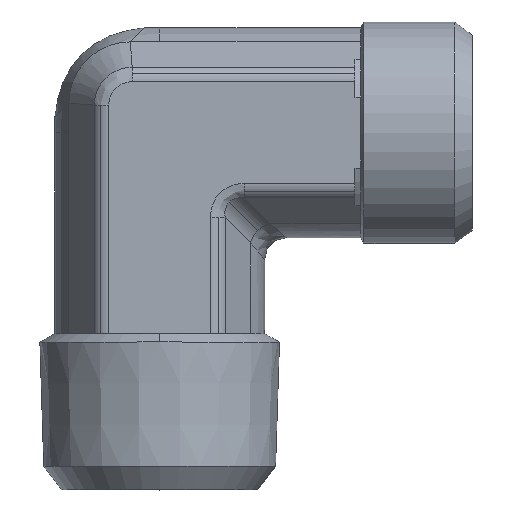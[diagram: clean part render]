
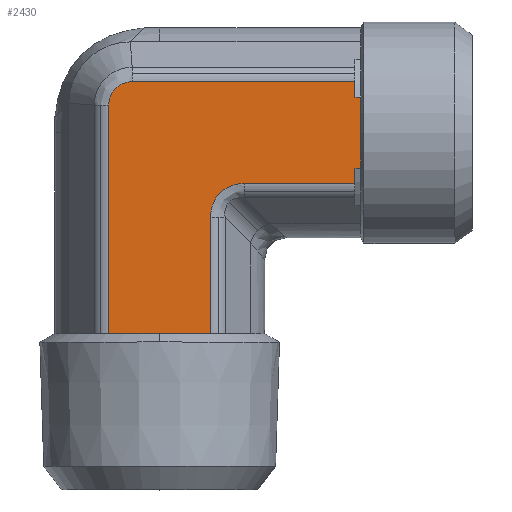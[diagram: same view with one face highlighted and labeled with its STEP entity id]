
A CAD part, top view. The second image highlights one B-rep face of the part: STEP entity #2430.
In plain terms, the highlighted planar face has unit normal (0, 0, 1) as drawn and (0, -1, 0) by its records, which use the part's own axes.
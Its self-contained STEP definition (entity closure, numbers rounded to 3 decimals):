
#361=CARTESIAN_POINT('',(3.092,-9.4,4.561));
#362=VERTEX_POINT('',#361);
#370=CARTESIAN_POINT('',(13.5,-9.4,4.561));
#371=VERTEX_POINT('',#370);
#372=CARTESIAN_POINT('',(3.092,-9.4,4.561));
#373=DIRECTION('',(1.0,0.0,0.0));
#374=VECTOR('',#373,10.408);
#375=LINE('',#372,#374);
#376=EDGE_CURVE('',#362,#371,#375,.T.);
#485=CARTESIAN_POINT('',(-9.061,-9.4,-2.461));
#486=VERTEX_POINT('',#485);
#494=CARTESIAN_POINT('',(-9.061,-9.4,17.5));
#495=VERTEX_POINT('',#494);
#496=CARTESIAN_POINT('',(-9.061,-9.4,-2.461));
#497=DIRECTION('',(0.0,0.0,1.0));
#498=VECTOR('',#497,19.961);
#499=LINE('',#496,#498);
#500=EDGE_CURVE('',#486,#495,#499,.T.);
#711=CARTESIAN_POINT('',(13.5,-9.4,0.));
#712=VERTEX_POINT('',#711);
#1898=CARTESIAN_POINT('',(0.061,-9.4,17.5));
#1899=VERTEX_POINT('',#1898);
#1900=CARTESIAN_POINT('',(-1.315,-9.4,17.5));
#1901=VERTEX_POINT('',#1900);
#1902=CARTESIAN_POINT('',(0.061,-9.4,17.5));
#1903=DIRECTION('',(-1.0,0.0,0.0));
#1904=VECTOR('',#1903,1.376);
#1905=LINE('',#1902,#1904);
#1906=EDGE_CURVE('',#1899,#1901,#1905,.T.);
#1957=CARTESIAN_POINT('',(-7.685,-9.4,17.5));
#1958=VERTEX_POINT('',#1957);
#1959=CARTESIAN_POINT('',(-7.685,-9.4,17.5));
#1960=DIRECTION('',(-1.0,0.0,0.0));
#1961=VECTOR('',#1960,1.376);
#1962=LINE('',#1959,#1961);
#1963=EDGE_CURVE('',#1958,#495,#1962,.T.);
#2062=CARTESIAN_POINT('',(-1.315,-9.4,18.0));
#2063=VERTEX_POINT('',#2062);
#2064=CARTESIAN_POINT('',(-1.315,-9.4,17.5));
#2065=DIRECTION('',(0.0,0.0,1.0));
#2066=VECTOR('',#2065,0.5);
#2067=LINE('',#2064,#2066);
#2068=EDGE_CURVE('',#1901,#2063,#2067,.T.);
#2103=CARTESIAN_POINT('',(-7.685,-9.4,18.0));
#2104=VERTEX_POINT('',#2103);
#2105=CARTESIAN_POINT('',(-7.685,-9.4,18.0));
#2106=DIRECTION('',(0.0,0.0,-1.0));
#2107=VECTOR('',#2106,0.5);
#2108=LINE('',#2105,#2107);
#2109=EDGE_CURVE('',#2104,#1958,#2108,.T.);
#2336=CARTESIAN_POINT('',(-4.5,-9.4,18.0));
#2337=VERTEX_POINT('',#2336);
#2338=CARTESIAN_POINT('',(-4.5,-9.4,18.0));
#2339=DIRECTION('',(-1.0,0.0,0.0));
#2340=VECTOR('',#2339,3.185);
#2341=LINE('',#2338,#2340);
#2342=EDGE_CURVE('',#2337,#2104,#2341,.T.);
#2360=CARTESIAN_POINT('',(-4.5,-9.4,-3.175));
#2361=DIRECTION('',(0.0,-1.0,0.0));
#2362=DIRECTION('',(0.0,0.0,-1.0));
#2363=AXIS2_PLACEMENT_3D('',#2360,#2361,#2362);
#2364=PLANE('',#2363);
#2365=ORIENTED_EDGE('',*,*,#2109,.T.);
#2366=ORIENTED_EDGE('',*,*,#1963,.T.);
#2367=ORIENTED_EDGE('',*,*,#500,.F.);
#2368=CARTESIAN_POINT('',(-6.961,-9.4,-4.561));
#2369=VERTEX_POINT('',#2368);
#2370=CARTESIAN_POINT('',(-9.061,-9.4,-2.461));
#2371=CARTESIAN_POINT('',(-9.061,-9.4,-2.598));
#2372=CARTESIAN_POINT('',(-9.048,-9.4,-2.736));
#2373=CARTESIAN_POINT('',(-8.977,-9.4,-3.088));
#2374=CARTESIAN_POINT('',(-8.901,-9.4,-3.296));
#2375=CARTESIAN_POINT('',(-8.62,-9.4,-3.796));
#2376=CARTESIAN_POINT('',(-8.37,-9.4,-4.058));
#2377=CARTESIAN_POINT('',(-7.737,-9.4,-4.451));
#2378=CARTESIAN_POINT('',(-7.349,-9.4,-4.561));
#2379=CARTESIAN_POINT('',(-6.961,-9.4,-4.561));
#2380=B_SPLINE_CURVE_WITH_KNOTS('',3,(#2370,#2371,#2372,#2373,#2374,#2375,#2376,#2377,#2378,#2379),.UNSPECIFIED.,.F.,.U.,(4,2,2,2,4),(-3.281,-2.871,-2.215,-1.165,0.0),.UNSPECIFIED.);
#2381=EDGE_CURVE('',#2369,#486,#2380,.F.);
#2382=ORIENTED_EDGE('',*,*,#2381,.F.);
#2383=CARTESIAN_POINT('',(13.5,-9.4,-4.561));
#2384=VERTEX_POINT('',#2383);
#2385=CARTESIAN_POINT('',(13.5,-9.4,-4.561));
#2386=DIRECTION('',(-1.0,0.0,0.0));
#2387=VECTOR('',#2386,20.461);
#2388=LINE('',#2385,#2387);
#2389=EDGE_CURVE('',#2384,#2369,#2388,.T.);
#2390=ORIENTED_EDGE('',*,*,#2389,.F.);
#2391=CARTESIAN_POINT('',(13.5,-9.4,-4.561));
#2392=DIRECTION('',(0.0,0.0,1.0));
#2393=VECTOR('',#2392,4.561);
#2394=LINE('',#2391,#2393);
#2395=EDGE_CURVE('',#2384,#712,#2394,.T.);
#2396=ORIENTED_EDGE('',*,*,#2395,.T.);
#2397=CARTESIAN_POINT('',(13.5,-9.4,0.));
#2398=DIRECTION('',(0.0,0.0,1.0));
#2399=VECTOR('',#2398,4.561);
#2400=LINE('',#2397,#2399);
#2401=EDGE_CURVE('',#712,#371,#2400,.T.);
#2402=ORIENTED_EDGE('',*,*,#2401,.T.);
#2403=ORIENTED_EDGE('',*,*,#376,.F.);
#2404=CARTESIAN_POINT('',(0.061,-9.4,7.592));
#2405=VERTEX_POINT('',#2404);
#2406=CARTESIAN_POINT('',(4.103,-9.4,8.603));
#2407=DIRECTION('',(0.,-1.0,0.));
#2408=DIRECTION('',(-0.707,0.,-0.707));
#2409=AXIS2_PLACEMENT_3D('',#2406,#2407,#2408);
#2410=ELLIPSE('',#2409,4.518,3.5);
#2411=EDGE_CURVE('',#2405,#362,#2410,.T.);
#2412=ORIENTED_EDGE('',*,*,#2411,.F.);
#2413=CARTESIAN_POINT('',(0.061,-9.4,17.5));
#2414=DIRECTION('',(0.0,0.0,-1.0));
#2415=VECTOR('',#2414,9.908);
#2416=LINE('',#2413,#2415);
#2417=EDGE_CURVE('',#1899,#2405,#2416,.T.);
#2418=ORIENTED_EDGE('',*,*,#2417,.F.);
#2419=ORIENTED_EDGE('',*,*,#1906,.T.);
#2420=ORIENTED_EDGE('',*,*,#2068,.T.);
#2421=CARTESIAN_POINT('',(-1.315,-9.4,18.0));
#2422=DIRECTION('',(-1.0,0.0,0.0));
#2423=VECTOR('',#2422,3.185);
#2424=LINE('',#2421,#2423);
#2425=EDGE_CURVE('',#2063,#2337,#2424,.T.);
#2426=ORIENTED_EDGE('',*,*,#2425,.T.);
#2427=ORIENTED_EDGE('',*,*,#2342,.T.);
#2428=EDGE_LOOP('',(#2365,#2366,#2367,#2382,#2390,#2396,#2402,#2403,#2412,#2418,#2419,#2420,#2426,#2427));
#2429=FACE_OUTER_BOUND('',#2428,.T.);
#2430=ADVANCED_FACE('',(#2429),#2364,.T.);
